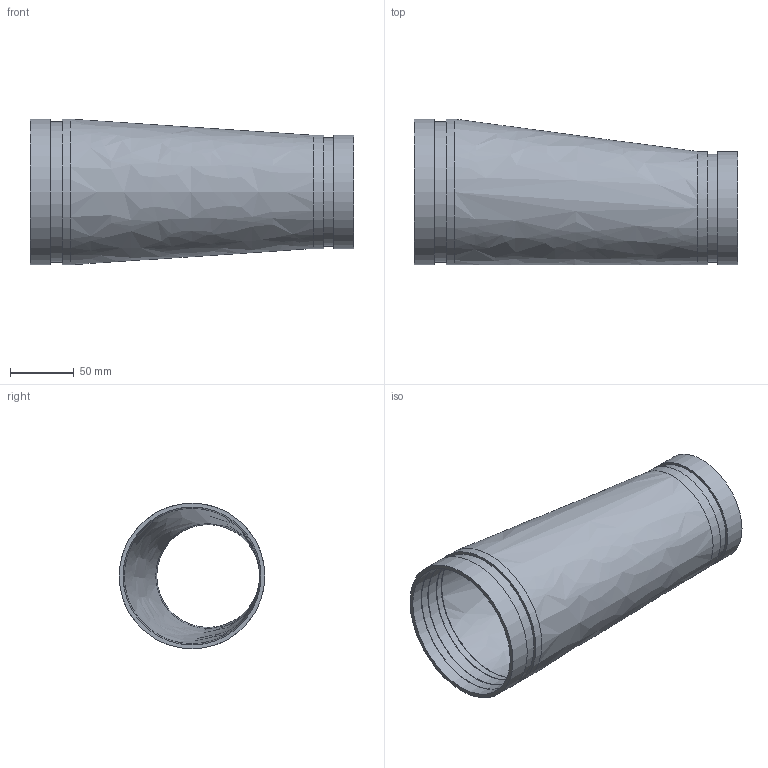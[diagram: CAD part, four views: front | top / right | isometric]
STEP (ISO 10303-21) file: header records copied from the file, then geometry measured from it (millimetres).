
FILE_DESCRIPTION(/* description */ ('VIC REDUCER ECCENTRIC No 451H-SS','CAx-IF Rec.Pracs.---Representation and Presentation of Product Manufacturing Information (PMI)---4.0---2014-10-13'),/* implementation_level */ '2;1');
FILE_NAME(/* name */ 'C:\Users\kkamble\AppData\Roaming\Autodesk\ApplicationPlugins\Back Up\Victaulic_SS-OGS_Reducer Eccentric_Sched 40S_No 451H SS (OGS)\Victaulic_SS-OGS_Reducer Eccentric_Sched 40S_No 451H SS (OGS)_04.0x03.0 (100x80).stp',/* time_stamp */ '2020-08-25T18:05:53+06:00',/* author */ ('CORINNE GRAY'),/* organization */ ('Victaulic'),/* preprocessor_version */ 'ST-DEVELOPER v17.2',/* originating_system */ 'Autodesk Inventor 2019',/* authorisation */ '');
FILE_SCHEMA (('AP242_MANAGED_MODEL_BASED_3D_ENGINEERING_MIM_LF { 1 0 10303 442 1 1 4 }'));
Length unit declared in the file: inch
Products named in the file (1): 451H SS-04.0x03.0
Bounding box: 254 x 114.3 x 114.3 mm (x, y, z)
Volume: 237270.7 mm3; surface area: 161800 mm2
Topology: 1 solids, 1 shells, 32 faces, 108 edges, 82 vertices
Faces by surface type: cylinder 12, torus 8, plane 6, cone 4, bspline 2
Full cylindrical faces by diameter (mm): 80.67 x1, 82.804 x2, 84.938 x1, 88.9 x2, 106.324 x1, 108.204 x2, 110.084 x1, 114.3 x2
Entity records: 1474 total; most frequent: DIRECTION 284, CARTESIAN_POINT 276, ORIENTED_EDGE 216, AXIS2_PLACEMENT_3D 134, EDGE_CURVE 108, CIRCLE 90, VERTEX_POINT 82, EDGE_LOOP 38
